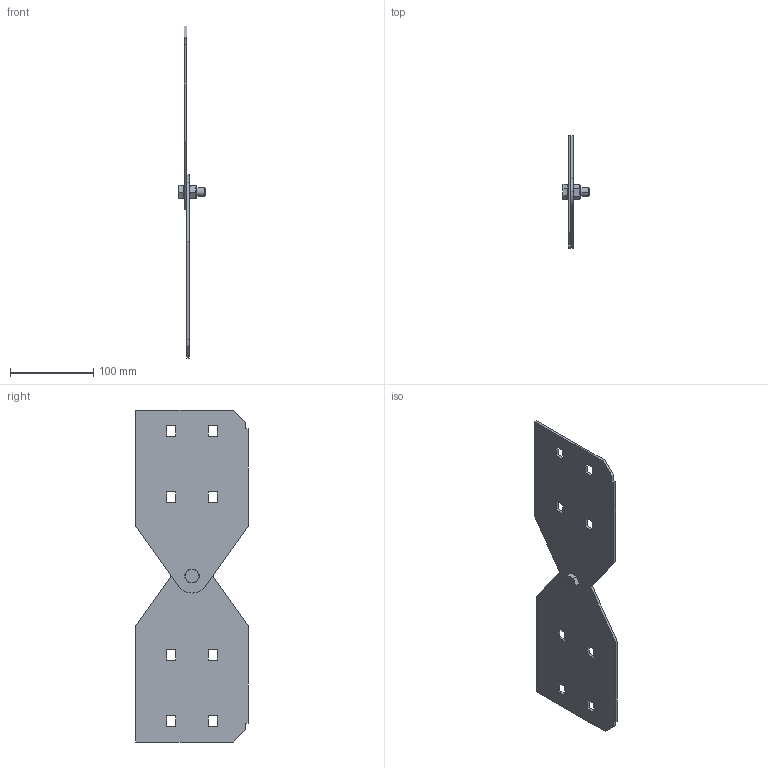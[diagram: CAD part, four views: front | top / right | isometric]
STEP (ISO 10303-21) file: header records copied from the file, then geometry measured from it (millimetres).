
FILE_DESCRIPTION (( 'STEP AP203' ), '1' );
FILE_NAME ('N20C VS.STEP', '2024-09-04T23:06:46', ( '' ), ( '' ), 'SwSTEP 2.0', 'SolidWorks 2023', '' );
FILE_SCHEMA (( 'CONFIG_CONTROL_DESIGN' ));
Length unit declared in the file: millimetre
Products named in the file (4): N20C VS; Hex bolt_Hex bolt M10x25; N20CVS-Vertical splice plate_N2S; ISO 4032 - M10
Assembly tree (4 placements, depth 2):
  N20C VS
    N20CVS-Vertical splice plate_N2S  x2
    Hex bolt_Hex bolt M10x25
    ISO 4032 - M10
Bounding box: 31.6 x 135 x 399.21 mm (x, y, z)
Volume: 150352.4 mm3; surface area: 104682.6 mm2
Topology: 4 solids, 4 shells, 100 faces, 258 edges, 168 vertices
Faces by surface type: plane 70, cylinder 14, cone 10, torus 6
Entity records: 2676 total; most frequent: CARTESIAN_POINT 567, ORIENTED_EDGE 348, DIRECTION 336, EDGE_CURVE 174, AXIS2_PLACEMENT_3D 113, VERTEX_POINT 112, LINE 110, VECTOR 110
